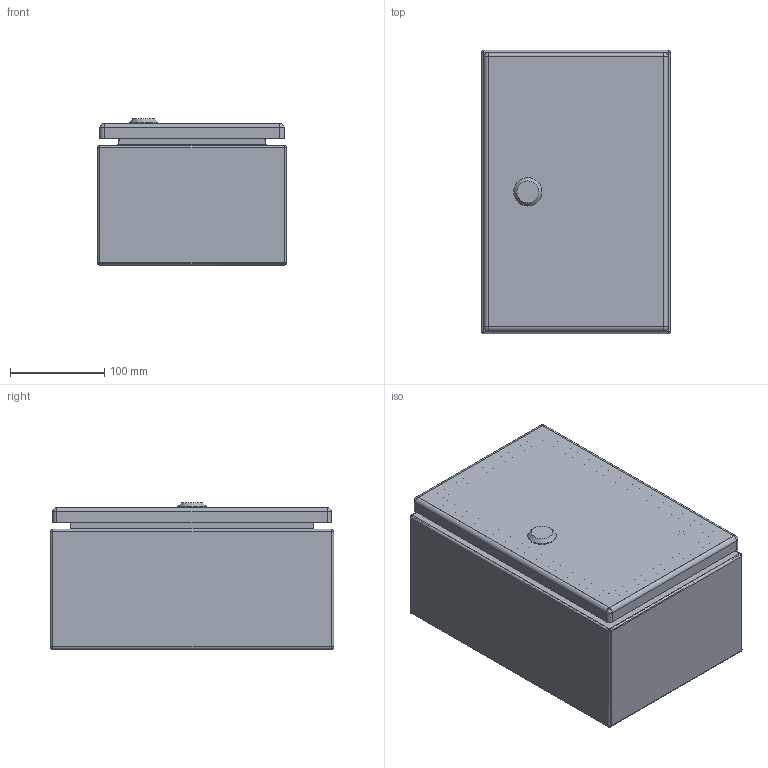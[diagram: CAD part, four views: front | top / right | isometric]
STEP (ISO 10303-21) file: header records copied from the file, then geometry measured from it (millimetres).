
FILE_DESCRIPTION (( 'STEP AP203' ), '1' );
FILE_NAME ('EC020315EEX.STEP', '2023-06-30T11:35:43', ( '' ), ( '' ), 'SwSTEP 2.0', 'SolidWorks 2022', '' );
FILE_SCHEMA (( 'CONFIG_CONTROL_DESIGN' ));
Length unit declared in the file: millimetre
Products named in the file (6): AR_EC_EEX_chiusura_std_STD; EC020315EEX; AR_ECOR_X_Piastra_01; AR_EC_EEX_montaggio_porta_singola_0200x0300; AR_EC_EEX_porta_singola_0200x0300; AR_EC_EEX_involucro_0200x0300x0150
Assembly tree (5 placements, depth 3):
  EC020315EEX
    AR_EC_EEX_involucro_0200x0300x0150
    AR_ECOR_X_Piastra_01
    AR_EC_EEX_montaggio_porta_singola_0200x0300
      AR_EC_EEX_porta_singola_0200x0300
      AR_EC_EEX_chiusura_std_STD
Bounding box: 200 x 300 x 155 mm (x, y, z)
Volume: 472047.5 mm3; surface area: 667037.9 mm2
Topology: 4 solids, 4 shells, 259 faces, 589 edges, 341 vertices
Faces by surface type: plane 119, cylinder 105, sphere 20, cone 6, torus 5, bspline 4
Full cylindrical faces by diameter (mm): 5.5 x2, 6 x3, 7 x4, 8 x7, 9.5 x4, 10 x8, 30 x1
Entity records: 7792 total; most frequent: CARTESIAN_POINT 1584, DIRECTION 1209, ORIENTED_EDGE 1050, EDGE_CURVE 525, AXIS2_PLACEMENT_3D 449, EDGE_LOOP 344, VERTEX_POINT 337, VECTOR 311
